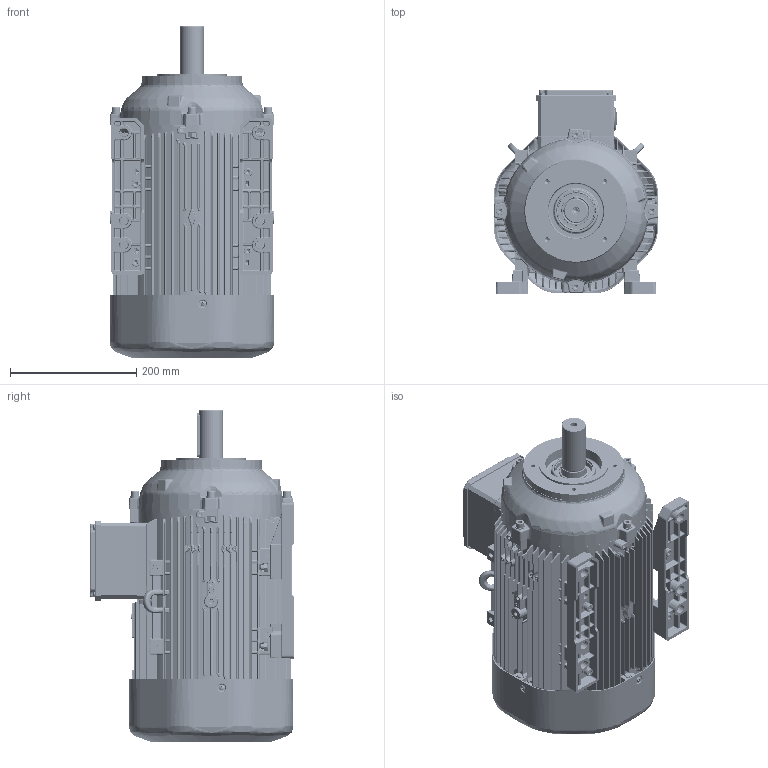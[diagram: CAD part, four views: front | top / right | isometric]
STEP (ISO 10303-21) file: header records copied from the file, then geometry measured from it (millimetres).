
FILE_DESCRIPTION(/* description */ (''),/* implementation_level */ '2;1');
FILE_NAME(/* name */ 'OUTLOOK VIEW QH132 PC B34 - REDUCED FT130 SPL.stp',/* time_stamp */ '2021-09-13T12:52:15+03:00',/* author */ (''),/* organization */ (''),/* preprocessor_version */ 'ST-DEVELOPER v16',/* originating_system */ 'SIEMENS PLM Software NX 11.0',/* authorisation */ '');
FILE_SCHEMA (('AUTOMOTIVE_DESIGN { 1 0 10303 214 3 1 1 1 }'));
Length unit declared in the file: millimetre
Products named in the file (1): 26062CE45B9Cd5z0
Bounding box: 260.83 x 324.71 x 526.5 mm (x, y, z)
Volume: 4486057.4 mm3; surface area: 1858174.1 mm2
Topology: 86 solids, 88 shells, 15141 faces, 35472 edges, 19690 vertices
Faces by surface type: cylinder 5063, bspline 4115, plane 3094, sphere 1358, torus 862, cone 620, extrusion 29
Full cylindrical faces by diameter (mm): 2.5 x2, 3.5 x2, 4 x4, 4.2 x8, 5.5 x8, 5.6 x1, 6.8 x5, 8 x35, 8.028 x3, 8.477 x2, 8.478 x1, 8.5 x8, 9 x4, 10.5 x1, 13 x12, 15 x2, 30.4 x2, 34.4 x1, 35 x1, 37.4 x1, 37.5 x1, 38 x1, 39.4 x2, 40 x5, 40.2 x1, 40.5 x1, 42.94 x1, 44 x2, 46.5 x1, 52.6 x4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
Entity records: 490361 total; most frequent: CARTESIAN_POINT 171139, ORIENTED_EDGE 67320, DIRECTION 64981, EDGE_CURVE 33660, AXIS2_PLACEMENT_3D 26633, VERTEX_POINT 19448, EDGE_LOOP 16448, ADVANCED_FACE 15140
